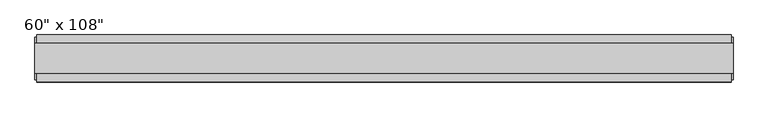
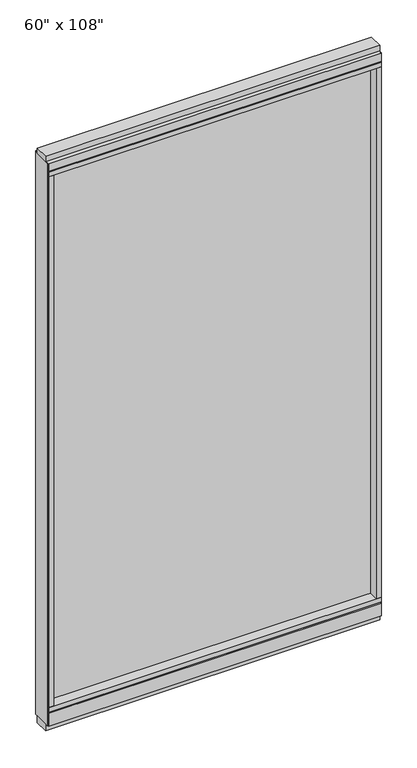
"""IFC4 building model written with IfcOpenShell, lengths in millimetres: furniture geometry."""

from ifc_helpers import new_model, si_unit, frame, origin, origin_with_axes, place, context, project, spatial, polyline, outline, extrude, source, transform, mapped, element, save


def furniture_c41c0817(model_context):
    return source(origin(), model_context, "Body", "SweptSolid", [
        extrude(outline(polyline([(669.4514771, -9.5977216), (-789.5245229, -9.5977216), (-789.5245229, 0.5622784), (669.4514771, 0.5622784), (669.4514771, -9.5977216)])), frame((0.0, 0.0, 120.523), z_axis=(0.0, 0.0, 1.0), x_axis=(1.0, 0.0, 0.0)), (0.0, 0.0, 1.0), 2533.777),
        extrude(outline(polyline([(-55.3177216, 93.345), (-50.3647216, 93.345), (-50.3647216, 98.298), (41.3292784, 98.298), (41.3292784, 93.345), (46.2822784, 93.345), (46.2822784, 31.75), (-55.3177216, 31.75), (-55.3177216, 93.345)])), frame((-811.7495229, 0.0, 0.0), z_axis=(1.0, 0.0, 0.0), x_axis=(0.0, 1.0, 0.0)), (0.0, 0.0, 1.0), 1503.426),
        extrude(outline(polyline([(-811.7495229, -55.3177216), (-811.7495229, 46.2822784), (691.6764771, 46.2822784), (691.6764771, -55.3177216), (-811.7495229, -55.3177216)])), frame((0.0, 0.0, 98.298), z_axis=(0.0, 0.0, 1.0), x_axis=(1.0, 0.0, 0.0)), (0.0, 0.0, 1.0), 22.225),
        extrude(outline(polyline([(695.6134771, 27.9942784), (695.6134771, -37.0297216), (-815.6865229, -37.0297216), (-815.6865229, 27.9942784), (695.6134771, 27.9942784)])), origin_with_axes(), (0.0, 0.0, 1.0), 31.75),
        extrude(outline(polyline([(-815.6865229, -37.0297216), (-815.6865229, 27.9942784), (695.6134771, 27.9942784), (695.6134771, -37.0297216), (-815.6865229, -37.0297216)])), frame((0.0, 0.0, 2717.8), z_axis=(0.0, 0.0, 1.0), x_axis=(1.0, 0.0, 0.0)), (0.0, 0.0, 1.0), 25.4),
        extrude(outline(polyline([(-55.3177216, 2681.478), (-55.3177216, 2717.8), (46.2822784, 2717.8), (46.2822784, 2681.478), (41.3292784, 2681.478), (41.3292784, 2676.525), (-50.3647216, 2676.525), (-50.3647216, 2681.478), (-55.3177216, 2681.478)])), frame((-811.7495229, 0.0, 0.0), z_axis=(1.0, 0.0, 0.0), x_axis=(0.0, 1.0, 0.0)), (0.0, 0.0, 1.0), 1503.426),
        extrude(outline(polyline([(691.6764771, 46.2822784), (691.6764771, -55.3177216), (-811.7495229, -55.3177216), (-811.7495229, 46.2822784), (691.6764771, 46.2822784)])), frame((0.0, 0.0, 2654.3), z_axis=(0.0, 0.0, 1.0), x_axis=(1.0, 0.0, 0.0)), (0.0, 0.0, 1.0), 22.225),
        extrude(outline(polyline([(669.4514771, -55.3177216), (669.4514771, 46.2822784), (691.6764771, 46.2822784), (691.6764771, -55.3177216), (669.4514771, -55.3177216)])), frame((0.0, 0.0, 120.523), z_axis=(0.0, 0.0, 1.0), x_axis=(1.0, 0.0, 0.0)), (0.0, 0.0, 1.0), 2533.777),
        extrude(outline(polyline([(-789.5245229, -55.3177216), (-811.7495229, -55.3177216), (-811.7495229, 46.2822784), (-789.5245229, 46.2822784), (-789.5245229, -55.3177216)])), frame((0.0, 0.0, 120.523), z_axis=(0.0, 0.0, 1.0), x_axis=(1.0, 0.0, 0.0)), (0.0, 0.0, 1.0), 2533.777),
        extrude(outline(polyline([(695.6134771, -50.3647216), (691.6764771, -50.3647216), (691.6764771, 41.3292784), (695.6134771, 41.3292784), (695.6134771, -50.3647216)])), frame((0.0, 0.0, 31.75), z_axis=(0.0, 0.0, 1.0), x_axis=(1.0, 0.0, 0.0)), (0.0, 0.0, 1.0), 2686.05),
        extrude(outline(polyline([(-815.6865229, -50.3647216), (-815.6865229, 41.3292784), (-811.7495229, 41.3292784), (-811.7495229, -50.3647216), (-815.6865229, -50.3647216)])), frame((0.0, 0.0, 31.75), z_axis=(0.0, 0.0, 1.0), x_axis=(1.0, 0.0, 0.0)), (0.0, 0.0, 1.0), 2686.05),
    ])


if __name__ == "__main__":
    model = new_model("IFC4")
    model_context = context("Model", 3, world=origin())
    ifc_project = project(units=[si_unit("LENGTHUNIT", "METRE", prefix="MILLI")], contexts=[model_context])
    site = spatial("IfcSite", under=ifc_project)
    building = spatial("IfcBuilding", under=site)
    placement = place(None, origin())
    furniture_shape = furniture_c41c0817(model_context)
    element("IfcFurniture", 1, ObjectType="Haworth_Enclose_Wall_Glass : 60\" x 108\"", at=placement, inside=building, context=model_context, shape_type="MappedRepresentation", body=[
        mapped(furniture_shape, transform((0.0, 0.0, 0.0), x_axis=(1.0, 0.0, 0.0), y_axis=(0.0, 1.0, 0.0), z_axis=(0.0, 0.0, 1.0))),
    ])
    save(model, "model.ifc")
